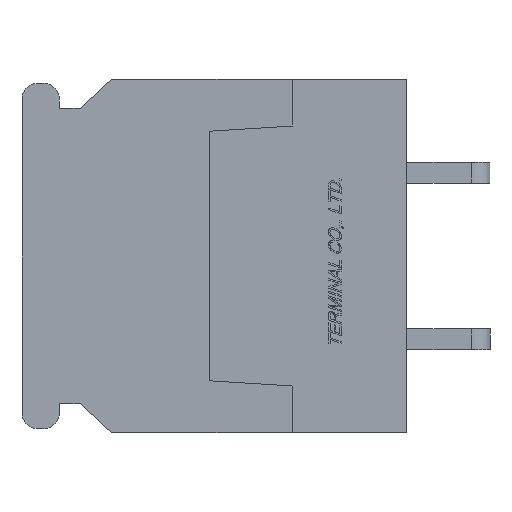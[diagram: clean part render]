
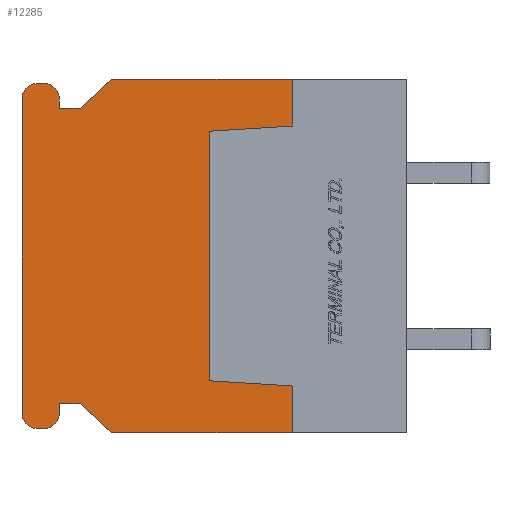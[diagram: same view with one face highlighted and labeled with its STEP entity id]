
A CAD part, left-side view. The second image highlights one B-rep face of the part: STEP entity #12285.
In plain terms, the highlighted planar face has unit normal (-1, 0, 0).
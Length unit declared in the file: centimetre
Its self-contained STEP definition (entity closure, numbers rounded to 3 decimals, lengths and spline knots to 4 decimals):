
#743=CIRCLE('',#13126,0.075);
#744=CIRCLE('',#13129,0.075);
#745=CIRCLE('',#13132,0.075);
#746=CIRCLE('',#13135,0.075);
#1611=VERTEX_POINT('',#18950);
#1612=VERTEX_POINT('',#18952);
#1613=VERTEX_POINT('',#18956);
#1614=VERTEX_POINT('',#18960);
#1615=VERTEX_POINT('',#18964);
#1616=VERTEX_POINT('',#18968);
#1635=VERTEX_POINT('',#19018);
#1636=VERTEX_POINT('',#19022);
#1637=VERTEX_POINT('',#19026);
#1638=VERTEX_POINT('',#19030);
#1639=VERTEX_POINT('',#19034);
#1640=VERTEX_POINT('',#19038);
#1641=VERTEX_POINT('',#19042);
#1642=VERTEX_POINT('',#19046);
#1643=VERTEX_POINT('',#19050);
#1644=VERTEX_POINT('',#19054);
#1645=VERTEX_POINT('',#19058);
#1646=VERTEX_POINT('',#19062);
#1647=VERTEX_POINT('',#19066);
#1648=VERTEX_POINT('',#19070);
#2920=VECTOR('',#15119,1.);
#2923=VECTOR('',#15123,1.);
#2925=VECTOR('',#15126,1.);
#2927=VECTOR('',#15129,1.);
#2929=VECTOR('',#15132,1.);
#2950=VECTOR('',#15167,1.);
#2952=VECTOR('',#15170,1.);
#2954=VECTOR('',#15173,1.);
#2956=VECTOR('',#15176,1.);
#2959=VECTOR('',#15184,1.);
#2962=VECTOR('',#15192,1.);
#2965=VECTOR('',#15200,1.);
#2968=VECTOR('',#15208,1.);
#2970=VECTOR('',#15211,1.);
#2972=VECTOR('',#15214,1.);
#2973=VECTOR('',#15216,1.);
#4304=LINE('',#18951,#2920);
#4307=LINE('',#18957,#2923);
#4309=LINE('',#18961,#2925);
#4311=LINE('',#18965,#2927);
#4313=LINE('',#18969,#2929);
#4334=LINE('',#19019,#2950);
#4336=LINE('',#19023,#2952);
#4338=LINE('',#19027,#2954);
#4340=LINE('',#19031,#2956);
#4343=LINE('',#19039,#2959);
#4346=LINE('',#19047,#2962);
#4349=LINE('',#19055,#2965);
#4352=LINE('',#19063,#2968);
#4354=LINE('',#19067,#2970);
#4356=LINE('',#19071,#2972);
#4357=LINE('',#19073,#2973);
#6030=EDGE_CURVE('',#1612,#1611,#4304,.T.);
#6033=EDGE_CURVE('',#1611,#1613,#4307,.T.);
#6035=EDGE_CURVE('',#1613,#1614,#4309,.T.);
#6037=EDGE_CURVE('',#1614,#1615,#4311,.T.);
#6039=EDGE_CURVE('',#1615,#1616,#4313,.T.);
#6064=EDGE_CURVE('',#1635,#1616,#4334,.T.);
#6066=EDGE_CURVE('',#1636,#1635,#4336,.T.);
#6068=EDGE_CURVE('',#1637,#1636,#4338,.T.);
#6070=EDGE_CURVE('',#1638,#1637,#4340,.T.);
#6072=EDGE_CURVE('',#1639,#1638,#743,.T.);
#6074=EDGE_CURVE('',#1640,#1639,#4343,.T.);
#6076=EDGE_CURVE('',#1641,#1640,#744,.T.);
#6078=EDGE_CURVE('',#1642,#1641,#4346,.T.);
#6080=EDGE_CURVE('',#1643,#1642,#745,.T.);
#6082=EDGE_CURVE('',#1644,#1643,#4349,.T.);
#6084=EDGE_CURVE('',#1645,#1644,#746,.T.);
#6086=EDGE_CURVE('',#1646,#1645,#4352,.T.);
#6088=EDGE_CURVE('',#1647,#1646,#4354,.T.);
#6090=EDGE_CURVE('',#1648,#1647,#4356,.T.);
#6091=EDGE_CURVE('',#1612,#1648,#4357,.T.);
#9259=ORIENTED_EDGE('',*,*,#6039,.T.);
#9260=ORIENTED_EDGE('',*,*,#6064,.F.);
#9261=ORIENTED_EDGE('',*,*,#6066,.F.);
#9262=ORIENTED_EDGE('',*,*,#6068,.F.);
#9263=ORIENTED_EDGE('',*,*,#6070,.F.);
#9264=ORIENTED_EDGE('',*,*,#6072,.F.);
#9265=ORIENTED_EDGE('',*,*,#6074,.F.);
#9266=ORIENTED_EDGE('',*,*,#6076,.F.);
#9267=ORIENTED_EDGE('',*,*,#6078,.F.);
#9268=ORIENTED_EDGE('',*,*,#6080,.F.);
#9269=ORIENTED_EDGE('',*,*,#6082,.F.);
#9270=ORIENTED_EDGE('',*,*,#6084,.F.);
#9271=ORIENTED_EDGE('',*,*,#6086,.F.);
#9272=ORIENTED_EDGE('',*,*,#6088,.F.);
#9273=ORIENTED_EDGE('',*,*,#6090,.F.);
#9274=ORIENTED_EDGE('',*,*,#6091,.F.);
#9275=ORIENTED_EDGE('',*,*,#6030,.T.);
#9276=ORIENTED_EDGE('',*,*,#6033,.T.);
#9277=ORIENTED_EDGE('',*,*,#6035,.T.);
#9278=ORIENTED_EDGE('',*,*,#6037,.T.);
#10817=EDGE_LOOP('',(#9259,#9260,#9261,#9262,#9263,#9264,#9265,#9266,#9267,
#9268,#9269,#9270,#9271,#9272,#9273,#9274,#9275,#9276,#9277,#9278));
#11581=FACE_BOUND('',#10817,.T.);
#12285=ADVANCED_FACE('',(#11581),#20897,.F.);
#13126=AXIS2_PLACEMENT_3D('',#19035,#15180,#15181);
#13129=AXIS2_PLACEMENT_3D('',#19043,#15188,#15189);
#13132=AXIS2_PLACEMENT_3D('',#19051,#15196,#15197);
#13135=AXIS2_PLACEMENT_3D('',#19059,#15204,#15205);
#13140=AXIS2_PLACEMENT_3D('',#19074,#15217,$);
#15119=DIRECTION('',(0.,0.,1.));
#15123=DIRECTION('',(0.,0.998,0.062));
#15126=DIRECTION('',(0.,0.,1.));
#15129=DIRECTION('',(0.,-0.998,0.062));
#15132=DIRECTION('',(0.,0.,1.));
#15167=DIRECTION('',(0.,-1.,0.));
#15170=DIRECTION('',(0.,-0.731,0.682));
#15173=DIRECTION('',(0.,-1.,0.));
#15176=DIRECTION('',(0.,0.,-1.));
#15180=DIRECTION('',(1.,0.,0.));
#15181=DIRECTION('',(0.,0.,-0.075));
#15184=DIRECTION('',(0.,-1.,0.));
#15188=DIRECTION('',(1.,0.,0.));
#15189=DIRECTION('',(0.,0.,-0.075));
#15192=DIRECTION('',(0.,0.,1.));
#15196=DIRECTION('',(1.,0.,0.));
#15197=DIRECTION('',(0.,0.,-0.075));
#15200=DIRECTION('',(0.,1.,0.));
#15204=DIRECTION('',(1.,0.,0.));
#15205=DIRECTION('',(0.,0.,-0.075));
#15208=DIRECTION('',(0.,0.,-1.));
#15211=DIRECTION('',(0.,1.,0.));
#15214=DIRECTION('',(0.,0.731,0.682));
#15216=DIRECTION('',(0.,1.,0.));
#15217=DIRECTION('',(1.,0.,0.));
#18950=CARTESIAN_POINT('',(0.,0.55,-0.625));
#18951=CARTESIAN_POINT('',(0.,0.55,-0.3687));
#18952=CARTESIAN_POINT('',(0.,0.55,-0.85));
#18956=CARTESIAN_POINT('',(0.,0.95,-0.6));
#18957=CARTESIAN_POINT('',(0.,0.8629,-0.6054));
#18960=CARTESIAN_POINT('',(0.,0.95,0.6));
#18961=CARTESIAN_POINT('',(0.,0.95,0.));
#18964=CARTESIAN_POINT('',(0.,0.55,0.625));
#18965=CARTESIAN_POINT('',(0.,0.8629,0.6054));
#18968=CARTESIAN_POINT('',(0.,0.55,0.85));
#18969=CARTESIAN_POINT('',(0.,0.55,0.3687));
#19018=CARTESIAN_POINT('',(0.,1.42,0.85));
#19019=CARTESIAN_POINT('',(0.,1.42,0.85));
#19022=CARTESIAN_POINT('',(0.,1.57,0.71));
#19023=CARTESIAN_POINT('',(0.,1.57,0.71));
#19026=CARTESIAN_POINT('',(0.,1.67,0.71));
#19027=CARTESIAN_POINT('',(0.,1.67,0.71));
#19030=CARTESIAN_POINT('',(0.,1.67,0.755));
#19031=CARTESIAN_POINT('',(0.,1.67,0.755));
#19034=CARTESIAN_POINT('',(0.,1.745,0.83));
#19035=CARTESIAN_POINT('',(0.,1.745,0.755));
#19038=CARTESIAN_POINT('',(0.,1.775,0.83));
#19039=CARTESIAN_POINT('',(0.,1.775,0.83));
#19042=CARTESIAN_POINT('',(0.,1.85,0.755));
#19043=CARTESIAN_POINT('',(0.,1.775,0.755));
#19046=CARTESIAN_POINT('',(0.,1.85,-0.755));
#19047=CARTESIAN_POINT('',(0.,1.85,-0.755));
#19050=CARTESIAN_POINT('',(0.,1.775,-0.83));
#19051=CARTESIAN_POINT('',(0.,1.775,-0.755));
#19054=CARTESIAN_POINT('',(0.,1.745,-0.83));
#19055=CARTESIAN_POINT('',(0.,1.745,-0.83));
#19058=CARTESIAN_POINT('',(0.,1.67,-0.755));
#19059=CARTESIAN_POINT('',(0.,1.745,-0.755));
#19062=CARTESIAN_POINT('',(0.,1.67,-0.71));
#19063=CARTESIAN_POINT('',(0.,1.67,-0.71));
#19066=CARTESIAN_POINT('',(0.,1.57,-0.71));
#19067=CARTESIAN_POINT('',(0.,1.57,-0.71));
#19070=CARTESIAN_POINT('',(0.,1.42,-0.85));
#19071=CARTESIAN_POINT('',(0.,1.42,-0.85));
#19073=CARTESIAN_POINT('',(0.,0.,-0.85));
#19074=CARTESIAN_POINT('',(0.,0.9383,0.));
#20897=PLANE('',#13140);
